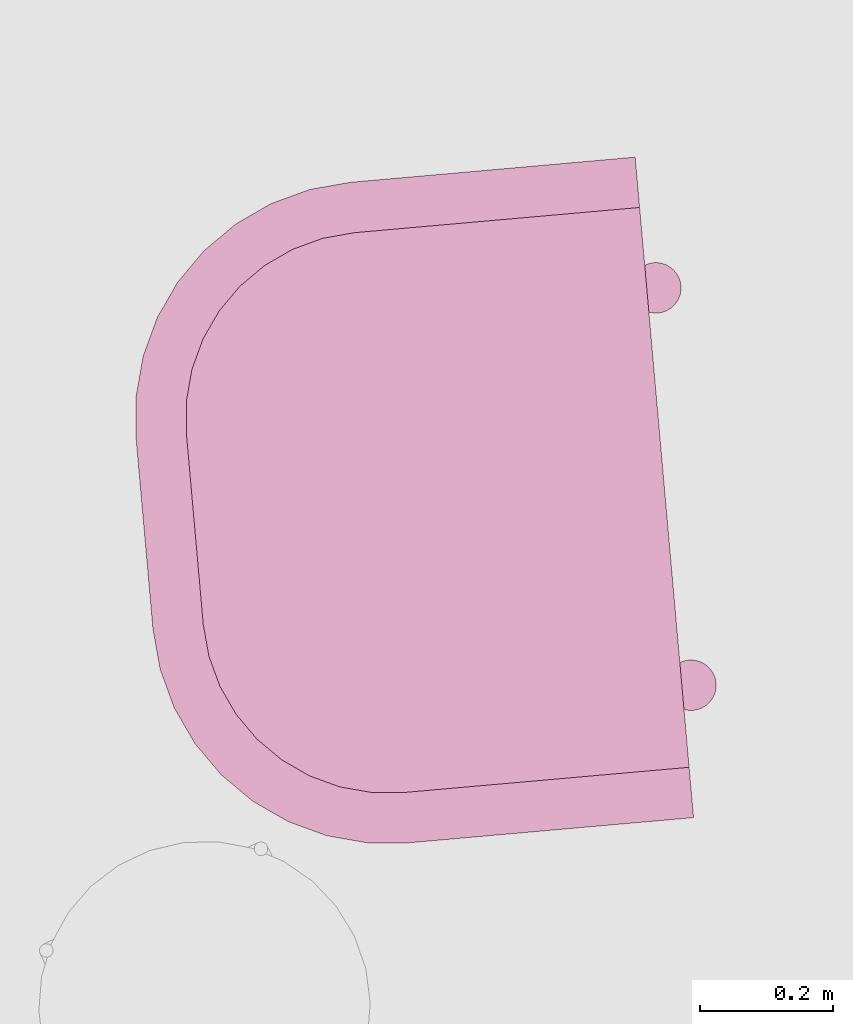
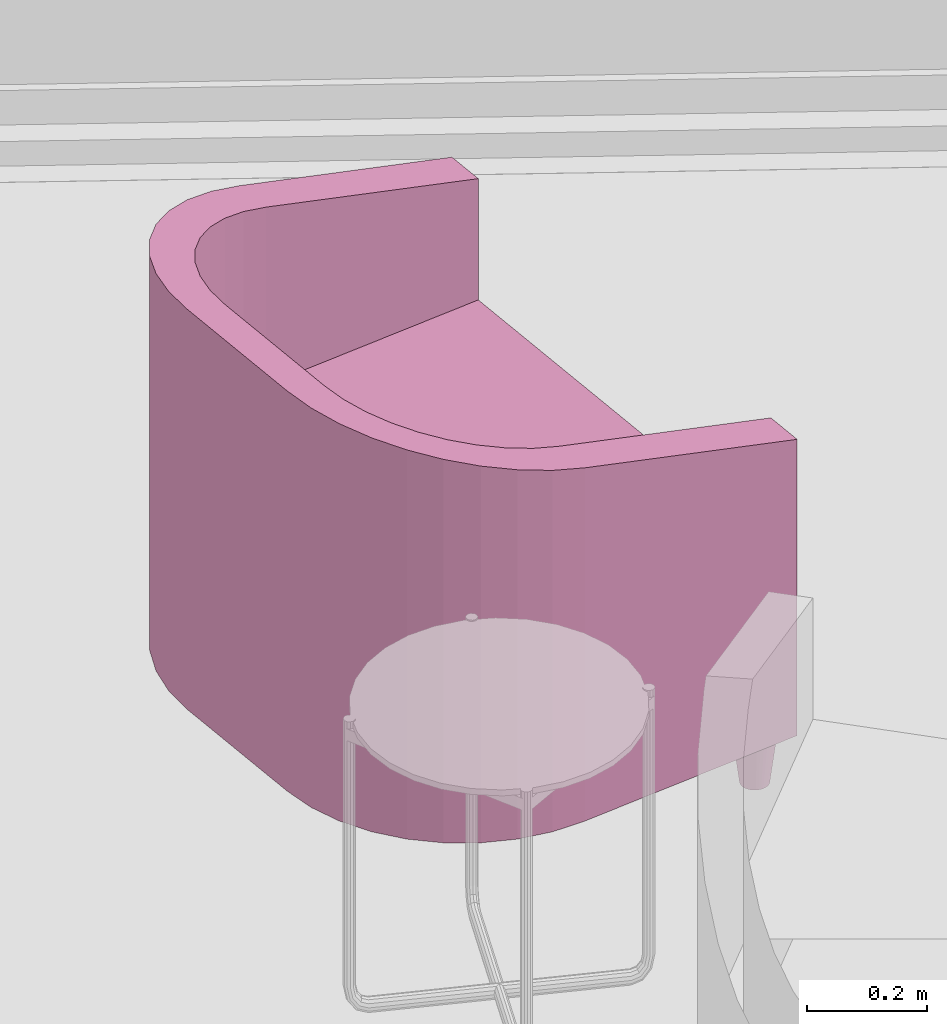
# One storey, part 33 of 52: 1 furnishing.
"""IFC2X3 building model written with IfcOpenShell, lengths in metres."""

import ifcopenshell
import ifcopenshell.guid

model = None  # the IFC model being written
_history = None  # IfcOwnerHistory: only IFC2X3 demands one
_inside = {}  # id of a spatial element -> (the spatial element, [elements in it])
_under = {}  # id of a project, library or spatial element -> (it, [spatial elements below it])
_declared = {}  # id of a project -> (the project, [libraries it declares])
_typed = {}  # id of a type object -> (the type object, [elements of that type])
_made_of = {}  # id of a material, layer set ... -> (it, [elements and type objects made of it])


def new_model(schema):
    """Start an empty IFC model of exactly this schema.

    Asked for "IFC4X3", IfcOpenShell would pick the latest addendum, in which some entities
    have other attributes; the version numbers below select the first issue.
    IFC2X3 requires an IfcOwnerHistory on every rooted entity: one is made here for all.
    """
    global model, _history
    if schema == "IFC4X3":
        model = ifcopenshell.file(schema_version=(4, 3, 0, 0))
    else:
        model = ifcopenshell.file(schema=schema)
    _inside.clear()
    _under.clear()
    _declared.clear()
    _typed.clear()
    _made_of.clear()
    _history = None
    if model.schema == "IFC2X3":
        org = make("IfcOrganization", Name="unknown")
        user = make(
            "IfcPersonAndOrganization",
            ThePerson=make("IfcPerson", FamilyName="unknown"),
            TheOrganization=org,
        )
        app = make(
            "IfcApplication",
            ApplicationDeveloper=org,
            Version="unknown",
            ApplicationFullName="unknown",
            ApplicationIdentifier="unknown",
        )
        _history = make(
            "IfcOwnerHistory",
            OwningUser=user,
            OwningApplication=app,
            ChangeAction="ADDED",
            CreationDate=0,
        )
    return model


def make(cls, **values):
    """One entity of the class cls with the attributes given. An attribute that is None is left unset."""
    return model.create_entity(
        cls, **{name: value for name, value in values.items() if value is not None}
    )


def entity(cls, *values):
    """Any entity or typed value of the class cls, its attributes in the order of the schema. None: left unset."""
    e = model.create_entity(cls)
    for i, value in enumerate(values):
        if value is not None:
            e[i] = value
    return e


def rooted(cls, **values):
    """An entity with a GlobalId (a new one), such as an element, a storey or a relation."""
    return make(cls, GlobalId=ifcopenshell.guid.new(), OwnerHistory=_history, **values)


def si_unit(unit_type, name, prefix=None):
    """IfcSIUnit, for example si_unit("LENGTHUNIT", "METRE", prefix="MILLI")."""
    return make("IfcSIUnit", UnitType=unit_type, Prefix=prefix, Name=name)


def converted_unit(unit_type, name, factor, base, dimensions=None, offset=None):
    """IfcConversionBasedUnit, such as the inch: factor (a typed value) times the base unit."""
    return make(
        "IfcConversionBasedUnit"
        if offset is None
        else "IfcConversionBasedUnitWithOffset",
        ConversionOffset=offset,
        Dimensions=None
        if dimensions is None
        else entity("IfcDimensionalExponents", *dimensions),
        UnitType=unit_type,
        Name=name,
        ConversionFactor=make(
            "IfcMeasureWithUnit", ValueComponent=factor, UnitComponent=base
        ),
    )


def derived_unit(unit_type, elements):
    """IfcDerivedUnit: a product of units, each with its exponent."""
    return make(
        "IfcDerivedUnit",
        Elements=[
            make("IfcDerivedUnitElement", Unit=unit, Exponent=power)
            for unit, power in elements
        ],
        UnitType=unit_type,
    )


def money_unit(currency):
    """IfcMonetaryUnit."""
    return make("IfcMonetaryUnit", Currency=currency)


def assignment(units):
    """IfcUnitAssignment: the units of a project."""
    return None if units is None else make("IfcUnitAssignment", Units=units)


def point(xyz):
    """IfcCartesianPoint."""
    return None if xyz is None else make("IfcCartesianPoint", Coordinates=xyz)


def direction(xyz):
    """IfcDirection."""
    return None if xyz is None else make("IfcDirection", DirectionRatios=xyz)


def frame(location, z_axis=None, x_axis=None):
    """IfcAxis2Placement3D, a coordinate frame: its origin and axes. An axis left out is left unset."""
    return make(
        "IfcAxis2Placement3D",
        Location=point(location),
        Axis=direction(z_axis),
        RefDirection=direction(x_axis),
    )


def origin_with_axes():
    """The frame at (0, 0, 0) with the z axis (0, 0, 1) and the x axis (1, 0, 0) written out."""
    return frame((0.0, 0.0, 0.0), z_axis=(0.0, 0.0, 1.0), x_axis=(1.0, 0.0, 0.0))


def place(relative_to, where):
    """IfcLocalPlacement: puts the frame where relative to a parent placement (None: the world)."""
    return make(
        "IfcLocalPlacement", PlacementRelTo=relative_to, RelativePlacement=where
    )


def context(
    kind, dimensions, precision=None, world=None, true_north=None, identifier=None
):
    """IfcGeometricRepresentationContext, for example the 3D "Model" context."""
    return make(
        "IfcGeometricRepresentationContext",
        ContextIdentifier=identifier,
        ContextType=kind,
        CoordinateSpaceDimension=dimensions,
        Precision=precision,
        WorldCoordinateSystem=world,
        TrueNorth=true_north,
    )


def subcontext(parent, identifier, kind, view, scale=None):
    """IfcGeometricRepresentationSubContext, for example "Body" below "Model"."""
    return make(
        "IfcGeometricRepresentationSubContext",
        ContextIdentifier=identifier,
        ContextType=kind,
        ParentContext=parent,
        TargetScale=scale,
        TargetView=view,
    )


def project(units=None, contexts=None):
    """IfcProject with its units and contexts."""
    return rooted(
        "IfcProject",
        Name="project",
        RepresentationContexts=contexts,
        UnitsInContext=assignment(units),
    )


def spatial(cls, under=None, at=None, **own):
    """A site, building, storey or space (cls), placed at a placement, below another one or the project."""
    s = rooted(cls, ObjectPlacement=at, **own)
    if under is not None:
        _under.setdefault(under.id(), (under, []))[1].append(s)
    return s


def faces_of(points, faces, orient=None, outer=None):
    """IfcFace entities. A face is a list of loops; a loop is a list of indices into points, from 0.

    orient and outer hold one flag for each loop. By default every Orientation is true, the
    first loop of a face is its IfcFaceOuterBound and the others are IfcFaceBound.
    """
    made = []
    for i, loops in enumerate(faces):
        bounds = []
        for j, loop in enumerate(loops):
            is_outer = j == 0 if outer is None else outer[i][j]
            bounds.append(
                make(
                    "IfcFaceOuterBound" if is_outer else "IfcFaceBound",
                    Bound=make("IfcPolyLoop", Polygon=[points[k] for k in loop]),
                    Orientation=True if orient is None else orient[i][j],
                )
            )
        made.append(make("IfcFace", Bounds=bounds))
    return made


def faceted_brep(points, faces, orient=None, outer=None, voids=None):
    """IfcFacetedBrep: a solid bounded by flat faces; with voids (closed shells), ...WithVoids."""
    shared = [point(p) for p in points]
    hull = make("IfcClosedShell", CfsFaces=faces_of(shared, faces, orient, outer))
    if voids is None:
        return make("IfcFacetedBrep", Outer=hull)
    return make(
        "IfcFacetedBrepWithVoids",
        Outer=hull,
        Voids=[
            make(cls, CfsFaces=faces_of(shared, fs, o, b)) for cls, fs, o, b in voids
        ],
    )


def shape(context_of_items, identifier, shape_type, items):
    """IfcShapeRepresentation: the items that make up one representation, for example the "Body"."""
    return make(
        "IfcShapeRepresentation",
        ContextOfItems=context_of_items,
        RepresentationIdentifier=identifier,
        RepresentationType=shape_type,
        Items=items,
    )


def source(mapping_origin, context_of_items, identifier, shape_type, items):
    """IfcRepresentationMap: a shape defined once, which mapped items show again and again."""
    return make(
        "IfcRepresentationMap",
        MappingOrigin=mapping_origin,
        MappedRepresentation=shape(context_of_items, identifier, shape_type, items),
    )


def transform(
    local_origin,
    x_axis=None,
    y_axis=None,
    z_axis=None,
    scale=None,
    scale2=None,
    scale3=None,
    uniform=True,
):
    """IfcCartesianTransformationOperator3D, or its non-uniform kind. x_axis, y_axis, z_axis: its Axis1, 2, 3."""
    if uniform:
        return make(
            "IfcCartesianTransformationOperator3D",
            Axis1=direction(x_axis),
            Axis2=direction(y_axis),
            LocalOrigin=point(local_origin),
            Scale=scale,
            Axis3=direction(z_axis),
        )
    return make(
        "IfcCartesianTransformationOperator3DnonUniform",
        Axis1=direction(x_axis),
        Axis2=direction(y_axis),
        LocalOrigin=point(local_origin),
        Scale=scale,
        Axis3=direction(z_axis),
        Scale2=scale2,
        Scale3=scale3,
    )


def mapped(mapping_source, mapping_target):
    """IfcMappedItem: shows the shape of a source again, moved by a transform."""
    return make(
        "IfcMappedItem", MappingSource=mapping_source, MappingTarget=mapping_target
    )


def made_of(thing, what):
    """Note that an element or type object is made of a material, layer set ...; save() writes the relation."""
    if what is not None:
        _made_of.setdefault(what.id(), (what, []))[1].append(thing)
    return thing


def type_object(cls, material=None, **own):
    """A type object (cls), such as IfcWallType, which elements share."""
    return made_of(rooted(cls, **own), material)


def element(
    cls,
    number,
    at=None,
    inside=None,
    cuts=None,
    type_object=None,
    material=None,
    context=None,
    identifier="Body",
    shape_type=None,
    held_by="IfcProductDefinitionShape",
    body=None,
    shapes=None,
    **own,
):
    """One element of the class cls, such as IfcWall. Its Tag is "e" and its number.

    at: its placement. inside: the storey or other place that contains it. cuts: it is an
    opening in that element (IfcRelVoidsElement). A single representation is given by context,
    identifier, shape_type and body (its items); several are given by shapes. held_by: the class
    of the entity that holds the representations. save() writes the other relations.
    """
    e = rooted(cls, Tag="e%d" % number, ObjectPlacement=at, **own)
    if body is not None:
        shapes = [shape(context, identifier, shape_type, body)]
    if shapes is not None:
        e.Representation = make(held_by, Representations=shapes)
    if inside is not None:
        _inside.setdefault(inside.id(), (inside, []))[1].append(e)
    if cuts is not None:
        rooted(
            "IfcRelVoidsElement", RelatingBuildingElement=cuts, RelatedOpeningElement=e
        )
    if type_object is not None:
        _typed.setdefault(type_object.id(), (type_object, []))[1].append(e)
    return made_of(e, material)


def aggregate(whole, parts):
    """IfcRelAggregates: a whole, such as a stair, and the parts it consists of."""
    return rooted("IfcRelAggregates", RelatingObject=whole, RelatedObjects=parts)


def save(model, path):
    """Write the relations noted so far, then the file.

    IfcRelAggregates (storeys below a building ...), IfcRelContainedInSpatialStructure (elements
    in a storey), IfcRelDefinesByType, IfcRelAssociatesMaterial and IfcRelDeclares: one each for
    every whole, place, type object, material and project.
    """
    for whole, parts in _under.values():
        aggregate(whole, parts)
    for where, things in _inside.values():
        rooted(
            "IfcRelContainedInSpatialStructure",
            RelatedElements=things,
            RelatingStructure=where,
        )
    for kind, things in _typed.values():
        rooted("IfcRelDefinesByType", RelatedObjects=things, RelatingType=kind)
    for what, things in _made_of.values():
        rooted("IfcRelAssociatesMaterial", RelatedObjects=things, RelatingMaterial=what)
    for by, libraries in _declared.values():
        rooted("IfcRelDeclares", RelatingContext=by, RelatedDefinitions=libraries)
    model.write(path)


model = new_model("IFC2X3")

# Units and contexts
model_context = context("Model", 3, precision=1e-05, world=origin_with_axes(), true_north=direction((0.0, 1.0)))
body_context = subcontext(model_context, "Body", "Model", "MODEL_VIEW")
ifc_project = project(units=[si_unit("LENGTHUNIT", "METRE"), si_unit("AREAUNIT", "SQUARE_METRE"), si_unit("VOLUMEUNIT", "CUBIC_METRE"), converted_unit("PLANEANGLEUNIT", "DEGREE", entity("IfcPlaneAngleMeasure", 0.0174532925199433), si_unit("PLANEANGLEUNIT", "RADIAN"), dimensions=[0, 0, 0, 0, 0, 0, 0]), money_unit("EUR"), converted_unit("TIMEUNIT", "Year", entity("IfcTimeMeasure", 31556926.0), si_unit("TIMEUNIT", "SECOND"), dimensions=[0, 0, 1, 0, 0, 0, 0]), si_unit("MASSUNIT", "GRAM", prefix="KILO"), si_unit("THERMODYNAMICTEMPERATUREUNIT", "DEGREE_CELSIUS"), si_unit("LUMINOUSINTENSITYUNIT", "LUMEN"), si_unit("ENERGYUNIT", "JOULE", prefix="MEGA"), derived_unit("THERMALCONDUCTANCEUNIT", [(si_unit("POWERUNIT", "WATT"), 1), (si_unit("LENGTHUNIT", "METRE"), -1), (si_unit("THERMODYNAMICTEMPERATUREUNIT", "KELVIN"), -1)]), derived_unit("SPECIFICHEATCAPACITYUNIT", [(si_unit("ENERGYUNIT", "JOULE"), 1), (si_unit("MASSUNIT", "GRAM", prefix="KILO"), -1), (si_unit("THERMODYNAMICTEMPERATUREUNIT", "KELVIN"), -1)]), derived_unit("MASSDENSITYUNIT", [(si_unit("MASSUNIT", "GRAM", prefix="KILO"), 1), (si_unit("VOLUMEUNIT", "CUBIC_METRE"), -1)])], contexts=[model_context])

# Site, building, storey
site_placement = place(None, frame((-3.949935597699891, 1.740105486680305, 0.0), z_axis=(0.0, 0.0, 1.0), x_axis=(0.8799804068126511, -0.475009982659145, 0.0)))
site = spatial("IfcSite", under=ifc_project, at=site_placement, Name="Gelände", CompositionType="ELEMENT")
building_placement = place(site_placement, origin_with_axes())
building = spatial("IfcBuilding", under=site, at=building_placement, Name="Gebäude", CompositionType="ELEMENT")
storey_placement = place(building_placement, origin_with_axes())
storey = spatial("IfcBuildingStorey", under=building, at=storey_placement, Name="Erdgeschoss", CompositionType="ELEMENT", Elevation=0.0)

# Furnishing
furnishing_element_type = type_object("IfcFurnishingElementType", Name="bucket chair (1)")
shared_shape = source(origin_with_axes(), body_context, "Body", "Brep", [
    faceted_brep([(0.47421411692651, 0.73188933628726, 0.0), (0.4746, 0.7363000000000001, 0.0), (0.4873, 0.7363000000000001, 0.1016), (0.4867211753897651, 0.72968400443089, 0.1016), (0.473068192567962, 0.7276126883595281, 0.0), (0.4711970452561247, 0.7236000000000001, 0.0), (0.468657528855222, 0.719973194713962, 0.0), (0.4655268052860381, 0.7168424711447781, 0.0), (0.4619, 0.7143029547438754, 0.0), (0.457887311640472, 0.712431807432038, 0.0), (0.45361066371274, 0.71128588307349, 0.0), (0.4492, 0.7109000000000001, 0.0), (0.44478933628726, 0.71128588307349, 0.0), (0.440512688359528, 0.712431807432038, 0.0), (0.4365, 0.7143029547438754, 0.0), (0.4328731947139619, 0.7168424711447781, 0.0), (0.429742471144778, 0.719973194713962, 0.0), (0.4272029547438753, 0.7236000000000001, 0.0), (0.4253318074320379, 0.7276126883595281, 0.0), (0.4241858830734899, 0.73188933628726, 0.0), (0.4238, 0.7363000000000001, 0.0), (0.4241858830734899, 0.7407106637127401, 0.0), (0.4253318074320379, 0.744987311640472, 0.0), (0.4272029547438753, 0.7490000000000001, 0.0), (0.429742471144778, 0.7526268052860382, 0.0), (0.4328731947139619, 0.7557575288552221, 0.0), (0.4365, 0.7582970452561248, 0.0), (0.440512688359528, 0.7601681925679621, 0.0), (0.44478933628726, 0.7613141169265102, 0.0), (0.4492, 0.7617, 0.0), (0.45361066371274, 0.7613141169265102, 0.0), (0.457887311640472, 0.7601681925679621, 0.0), (0.4619, 0.7582970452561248, 0.0), (0.4655268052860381, 0.7557575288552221, 0.0), (0.468657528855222, 0.7526268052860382, 0.0), (0.4711970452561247, 0.7490000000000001, 0.0), (0.4730681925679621, 0.744987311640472, 0.0), (0.4742141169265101, 0.7407106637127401, 0.0), (0.4867211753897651, 0.7429159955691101, 0.1016), (0.4850022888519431, 0.749330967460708, 0.1016), (0.4821955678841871, 0.7553500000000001, 0.1016), (0.4783862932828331, 0.7607902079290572, 0.1016), (0.4736902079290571, 0.7654862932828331, 0.1016), (0.46825, 0.7692955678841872, 0.1016), (0.462230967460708, 0.7721022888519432, 0.1016), (0.45581599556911, 0.7738211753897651, 0.1016), (0.4492, 0.7744000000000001, 0.1016), (0.44258400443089, 0.7738211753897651, 0.1016), (0.436169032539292, 0.7721022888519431, 0.1016), (0.43015, 0.7692955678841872, 0.1016), (0.4247097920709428, 0.7654862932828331, 0.1016), (0.420013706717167, 0.7607902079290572, 0.1016), (0.4162044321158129, 0.7553500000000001, 0.1016), (0.4133977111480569, 0.749330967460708, 0.1016), (0.4116788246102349, 0.7429159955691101, 0.1016), (0.4111, 0.7363000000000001, 0.1016), (0.4116788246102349, 0.72968400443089, 0.1016), (0.4133977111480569, 0.7232690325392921, 0.1016), (0.4162044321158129, 0.71725, 0.1016), (0.420013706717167, 0.711809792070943, 0.1016), (0.4247097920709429, 0.707113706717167, 0.1016), (0.43015, 0.703304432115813, 0.1016), (0.436169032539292, 0.700497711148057, 0.1016), (0.44258400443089, 0.698778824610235, 0.1016), (0.4492, 0.6982000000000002, 0.1016), (0.45581599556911, 0.698778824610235, 0.1016), (0.462230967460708, 0.700497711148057, 0.1016), (0.4682499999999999, 0.7033044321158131, 0.1016), (0.4736902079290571, 0.707113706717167, 0.1016), (0.478386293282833, 0.711809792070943, 0.1016), (0.482195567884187, 0.71725, 0.1016), (0.485002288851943, 0.7232690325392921, 0.1016)], [[[0, 1, 2, 3]], [[0, 4, 5, 6, 7, 8, 9, 10, 11, 12, 13, 14, 15, 16, 17, 18, 19, 20, 21, 22, 23, 24, 25, 26, 27, 28, 29, 30, 31, 32, 33, 34, 35, 36, 37, 1]], [[1, 37, 38, 2]], [[3, 2, 38, 39, 40, 41, 42, 43, 44, 45, 46, 47, 48, 49, 50, 51, 52, 53, 54, 55, 56, 57, 58, 59, 60, 61, 62, 63, 64, 65, 66, 67, 68, 69, 70, 71]], [[4, 0, 3, 71]], [[5, 4, 71, 70]], [[6, 5, 70, 69]], [[7, 6, 69, 68]], [[8, 7, 68, 67]], [[9, 8, 67, 66]], [[10, 9, 66, 65]], [[11, 10, 65, 64]], [[12, 11, 64, 63]], [[13, 12, 63, 62]], [[14, 13, 62, 61]], [[15, 14, 61, 60]], [[16, 15, 60, 59]], [[17, 16, 59, 58]], [[18, 17, 58, 57]], [[19, 18, 57, 56]], [[20, 19, 56, 55]], [[21, 20, 55, 54]], [[22, 21, 54, 53]], [[23, 22, 53, 52]], [[24, 23, 52, 51]], [[25, 24, 51, 50]], [[26, 25, 50, 49]], [[27, 26, 49, 48]], [[28, 27, 48, 47]], [[29, 28, 47, 46]], [[30, 29, 46, 45]], [[31, 30, 45, 44]], [[32, 31, 44, 43]], [[33, 32, 43, 42]], [[34, 33, 42, 41]], [[35, 34, 41, 40]], [[36, 35, 40, 39]], [[37, 36, 39, 38]]]),
    faceted_brep([(-0.42418588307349, 0.73188933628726, 0.0), (-0.4238, 0.7363000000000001, 0.0), (-0.4111, 0.7363000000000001, 0.1016), (-0.4116788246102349, 0.72968400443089, 0.1016), (-0.425331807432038, 0.7276126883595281, 0.0), (-0.4272029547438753, 0.7236000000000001, 0.0), (-0.429742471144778, 0.719973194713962, 0.0), (-0.4328731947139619, 0.7168424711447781, 0.0), (-0.4365, 0.7143029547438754, 0.0), (-0.440512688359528, 0.712431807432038, 0.0), (-0.44478933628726, 0.71128588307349, 0.0), (-0.4492, 0.7109000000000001, 0.0), (-0.45361066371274, 0.71128588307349, 0.0), (-0.457887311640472, 0.712431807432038, 0.0), (-0.4619, 0.7143029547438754, 0.0), (-0.4655268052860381, 0.7168424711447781, 0.0), (-0.468657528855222, 0.719973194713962, 0.0), (-0.4711970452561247, 0.7236000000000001, 0.0), (-0.4730681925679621, 0.7276126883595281, 0.0), (-0.4742141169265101, 0.73188933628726, 0.0), (-0.4746, 0.7363000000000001, 0.0), (-0.4742141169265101, 0.7407106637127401, 0.0), (-0.4730681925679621, 0.744987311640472, 0.0), (-0.4711970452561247, 0.7490000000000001, 0.0), (-0.468657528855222, 0.7526268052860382, 0.0), (-0.4655268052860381, 0.7557575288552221, 0.0), (-0.4619, 0.7582970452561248, 0.0), (-0.457887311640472, 0.7601681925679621, 0.0), (-0.45361066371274, 0.7613141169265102, 0.0), (-0.4492, 0.7617, 0.0), (-0.44478933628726, 0.7613141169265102, 0.0), (-0.440512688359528, 0.7601681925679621, 0.0), (-0.4365, 0.7582970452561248, 0.0), (-0.4328731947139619, 0.7557575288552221, 0.0), (-0.4297424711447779, 0.7526268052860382, 0.0), (-0.4272029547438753, 0.7490000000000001, 0.0), (-0.4253318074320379, 0.744987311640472, 0.0), (-0.4241858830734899, 0.7407106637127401, 0.0), (-0.4116788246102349, 0.7429159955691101, 0.1016), (-0.4133977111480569, 0.749330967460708, 0.1016), (-0.4162044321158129, 0.7553500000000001, 0.1016), (-0.4200137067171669, 0.7607902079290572, 0.1016), (-0.4247097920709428, 0.7654862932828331, 0.1016), (-0.43015, 0.7692955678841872, 0.1016), (-0.436169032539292, 0.7721022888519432, 0.1016), (-0.44258400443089, 0.7738211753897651, 0.1016), (-0.4492, 0.7744000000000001, 0.1016), (-0.45581599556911, 0.7738211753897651, 0.1016), (-0.462230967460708, 0.7721022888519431, 0.1016), (-0.4682499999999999, 0.7692955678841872, 0.1016), (-0.4736902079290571, 0.7654862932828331, 0.1016), (-0.478386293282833, 0.7607902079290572, 0.1016), (-0.482195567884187, 0.7553500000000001, 0.1016), (-0.4850022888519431, 0.749330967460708, 0.1016), (-0.4867211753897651, 0.7429159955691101, 0.1016), (-0.4873, 0.7363000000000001, 0.1016), (-0.4867211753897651, 0.72968400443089, 0.1016), (-0.4850022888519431, 0.7232690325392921, 0.1016), (-0.482195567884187, 0.71725, 0.1016), (-0.478386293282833, 0.711809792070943, 0.1016), (-0.4736902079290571, 0.707113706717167, 0.1016), (-0.4682499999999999, 0.703304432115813, 0.1016), (-0.462230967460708, 0.700497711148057, 0.1016), (-0.45581599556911, 0.698778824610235, 0.1016), (-0.4492, 0.6982000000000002, 0.1016), (-0.44258400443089, 0.698778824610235, 0.1016), (-0.436169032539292, 0.700497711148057, 0.1016), (-0.43015, 0.7033044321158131, 0.1016), (-0.4247097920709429, 0.707113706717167, 0.1016), (-0.420013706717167, 0.711809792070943, 0.1016), (-0.4162044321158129, 0.71725, 0.1016), (-0.413397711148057, 0.7232690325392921, 0.1016)], [[[0, 1, 2, 3]], [[0, 4, 5, 6, 7, 8, 9, 10, 11, 12, 13, 14, 15, 16, 17, 18, 19, 20, 21, 22, 23, 24, 25, 26, 27, 28, 29, 30, 31, 32, 33, 34, 35, 36, 37, 1]], [[1, 37, 38, 2]], [[3, 2, 38, 39, 40, 41, 42, 43, 44, 45, 46, 47, 48, 49, 50, 51, 52, 53, 54, 55, 56, 57, 58, 59, 60, 61, 62, 63, 64, 65, 66, 67, 68, 69, 70, 71]], [[4, 0, 3, 71]], [[5, 4, 71, 70]], [[6, 5, 70, 69]], [[7, 6, 69, 68]], [[8, 7, 68, 67]], [[9, 8, 67, 66]], [[10, 9, 66, 65]], [[11, 10, 65, 64]], [[12, 11, 64, 63]], [[13, 12, 63, 62]], [[14, 13, 62, 61]], [[15, 14, 61, 60]], [[16, 15, 60, 59]], [[17, 16, 59, 58]], [[18, 17, 58, 57]], [[19, 18, 57, 56]], [[20, 19, 56, 55]], [[21, 20, 55, 54]], [[22, 21, 54, 53]], [[23, 22, 53, 52]], [[24, 23, 52, 51]], [[25, 24, 51, 50]], [[26, 25, 50, 49]], [[27, 26, 49, 48]], [[28, 27, 48, 47]], [[29, 28, 47, 46]], [[30, 29, 46, 45]], [[31, 30, 45, 44]], [[32, 31, 44, 43]], [[33, 32, 43, 42]], [[34, 33, 42, 41]], [[35, 34, 41, 40]], [[36, 35, 40, 39]], [[37, 36, 39, 38]]]),
    faceted_brep([(0.3258141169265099, 0.7963893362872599, 0.0), (0.3261999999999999, 0.8008, 0.0), (0.3388999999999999, 0.8008, 0.1016), (0.338321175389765, 0.7941840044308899, 0.1016), (0.3246681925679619, 0.792112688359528, 0.0), (0.3227970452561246, 0.7881, 0.0), (0.3202575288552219, 0.7844731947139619, 0.0), (0.317126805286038, 0.781342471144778, 0.0), (0.3134999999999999, 0.7788029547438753, 0.0), (0.3094873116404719, 0.7769318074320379, 0.0), (0.3052106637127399, 0.77578588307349, 0.0), (0.3007999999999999, 0.7754, 0.0), (0.2963893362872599, 0.77578588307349, 0.0), (0.2921126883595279, 0.7769318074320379, 0.0), (0.2880999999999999, 0.7788029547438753, 0.0), (0.2844731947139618, 0.781342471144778, 0.0), (0.2813424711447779, 0.7844731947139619, 0.0), (0.2788029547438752, 0.7881, 0.0), (0.2769318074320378, 0.792112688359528, 0.0), (0.2757858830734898, 0.7963893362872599, 0.0), (0.2753999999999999, 0.8008, 0.0), (0.2757858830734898, 0.80521066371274, 0.0), (0.2769318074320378, 0.8094873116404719, 0.0), (0.2788029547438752, 0.8135, 0.0), (0.2813424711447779, 0.8171268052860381, 0.0), (0.2844731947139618, 0.820257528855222, 0.0), (0.2880999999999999, 0.8227970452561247, 0.0), (0.2921126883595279, 0.824668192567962, 0.0), (0.2963893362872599, 0.8258141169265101, 0.0), (0.3007999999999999, 0.8261999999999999, 0.0), (0.3052106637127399, 0.8258141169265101, 0.0), (0.3094873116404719, 0.824668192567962, 0.0), (0.3134999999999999, 0.8227970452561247, 0.0), (0.317126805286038, 0.820257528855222, 0.0), (0.320257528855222, 0.8171268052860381, 0.0), (0.3227970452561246, 0.8135, 0.0), (0.324668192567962, 0.8094873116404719, 0.0), (0.32581411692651, 0.80521066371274, 0.0), (0.338321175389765, 0.80741599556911, 0.1016), (0.336602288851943, 0.8138309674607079, 0.1016), (0.333795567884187, 0.81985, 0.1016), (0.329986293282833, 0.825290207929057, 0.1016), (0.3252902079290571, 0.829986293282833, 0.1016), (0.3198499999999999, 0.8337955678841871, 0.1016), (0.3138309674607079, 0.8366022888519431, 0.1016), (0.3074159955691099, 0.838321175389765, 0.1016), (0.3007999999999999, 0.8389, 0.1016), (0.2941840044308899, 0.838321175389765, 0.1016), (0.2877690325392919, 0.8366022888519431, 0.1016), (0.2817499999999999, 0.8337955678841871, 0.1016), (0.2763097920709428, 0.829986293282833, 0.1016), (0.2716137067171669, 0.825290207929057, 0.1016), (0.2678044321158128, 0.81985, 0.1016), (0.2649977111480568, 0.8138309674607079, 0.1016), (0.2632788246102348, 0.80741599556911, 0.1016), (0.2626999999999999, 0.8008, 0.1016), (0.2632788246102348, 0.7941840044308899, 0.1016), (0.2649977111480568, 0.787769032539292, 0.1016), (0.2678044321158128, 0.78175, 0.1016), (0.2716137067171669, 0.7763097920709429, 0.1016), (0.2763097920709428, 0.7716137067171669, 0.1016), (0.2817499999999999, 0.7678044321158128, 0.1016), (0.2877690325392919, 0.7649977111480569, 0.1016), (0.2941840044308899, 0.7632788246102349, 0.1016), (0.3007999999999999, 0.7627, 0.1016), (0.3074159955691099, 0.7632788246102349, 0.1016), (0.3138309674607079, 0.7649977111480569, 0.1016), (0.3198499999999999, 0.767804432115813, 0.1016), (0.325290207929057, 0.7716137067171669, 0.1016), (0.3299862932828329, 0.7763097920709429, 0.1016), (0.333795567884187, 0.78175, 0.1016), (0.3366022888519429, 0.787769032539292, 0.1016)], [[[0, 1, 2, 3]], [[0, 4, 5, 6, 7, 8, 9, 10, 11, 12, 13, 14, 15, 16, 17, 18, 19, 20, 21, 22, 23, 24, 25, 26, 27, 28, 29, 30, 31, 32, 33, 34, 35, 36, 37, 1]], [[1, 37, 38, 2]], [[3, 2, 38, 39, 40, 41, 42, 43, 44, 45, 46, 47, 48, 49, 50, 51, 52, 53, 54, 55, 56, 57, 58, 59, 60, 61, 62, 63, 64, 65, 66, 67, 68, 69, 70, 71]], [[4, 0, 3, 71]], [[5, 4, 71, 70]], [[6, 5, 70, 69]], [[7, 6, 69, 68]], [[8, 7, 68, 67]], [[9, 8, 67, 66]], [[10, 9, 66, 65]], [[11, 10, 65, 64]], [[12, 11, 64, 63]], [[13, 12, 63, 62]], [[14, 13, 62, 61]], [[15, 14, 61, 60]], [[16, 15, 60, 59]], [[17, 16, 59, 58]], [[18, 17, 58, 57]], [[19, 18, 57, 56]], [[20, 19, 56, 55]], [[21, 20, 55, 54]], [[22, 21, 54, 53]], [[23, 22, 53, 52]], [[24, 23, 52, 51]], [[25, 24, 51, 50]], [[26, 25, 50, 49]], [[27, 26, 49, 48]], [[28, 27, 48, 47]], [[29, 28, 47, 46]], [[30, 29, 46, 45]], [[31, 30, 45, 44]], [[32, 31, 44, 43]], [[33, 32, 43, 42]], [[34, 33, 42, 41]], [[35, 34, 41, 40]], [[36, 35, 40, 39]], [[37, 36, 39, 38]]]),
    faceted_brep([(-0.2757858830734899, 0.7963893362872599, 0.0), (-0.2753999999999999, 0.8008, 0.0), (-0.2626999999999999, 0.8008, 0.1016), (-0.2632788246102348, 0.7941840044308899, 0.1016), (-0.2769318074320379, 0.792112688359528, 0.0), (-0.2788029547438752, 0.7881, 0.0), (-0.2813424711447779, 0.7844731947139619, 0.0), (-0.2844731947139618, 0.781342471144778, 0.0), (-0.2880999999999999, 0.7788029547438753, 0.0), (-0.2921126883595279, 0.7769318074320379, 0.0), (-0.2963893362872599, 0.77578588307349, 0.0), (-0.3007999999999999, 0.7754, 0.0), (-0.3052106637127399, 0.77578588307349, 0.0), (-0.3094873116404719, 0.7769318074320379, 0.0), (-0.3134999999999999, 0.7788029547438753, 0.0), (-0.317126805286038, 0.781342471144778, 0.0), (-0.3202575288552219, 0.7844731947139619, 0.0), (-0.3227970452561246, 0.7881, 0.0), (-0.324668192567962, 0.792112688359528, 0.0), (-0.32581411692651, 0.7963893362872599, 0.0), (-0.3261999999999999, 0.8008, 0.0), (-0.32581411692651, 0.80521066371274, 0.0), (-0.324668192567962, 0.8094873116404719, 0.0), (-0.3227970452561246, 0.8135, 0.0), (-0.3202575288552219, 0.8171268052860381, 0.0), (-0.317126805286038, 0.820257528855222, 0.0), (-0.3134999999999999, 0.8227970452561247, 0.0), (-0.3094873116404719, 0.824668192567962, 0.0), (-0.3052106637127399, 0.8258141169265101, 0.0), (-0.3007999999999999, 0.8261999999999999, 0.0), (-0.2963893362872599, 0.8258141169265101, 0.0), (-0.2921126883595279, 0.824668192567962, 0.0), (-0.2880999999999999, 0.8227970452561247, 0.0), (-0.2844731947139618, 0.820257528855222, 0.0), (-0.2813424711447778, 0.8171268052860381, 0.0), (-0.2788029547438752, 0.8135, 0.0), (-0.2769318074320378, 0.8094873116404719, 0.0), (-0.2757858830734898, 0.80521066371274, 0.0), (-0.2632788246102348, 0.80741599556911, 0.1016), (-0.2649977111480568, 0.8138309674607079, 0.1016), (-0.2678044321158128, 0.81985, 0.1016), (-0.2716137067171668, 0.825290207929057, 0.1016), (-0.2763097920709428, 0.829986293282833, 0.1016), (-0.2817499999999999, 0.8337955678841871, 0.1016), (-0.2877690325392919, 0.8366022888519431, 0.1016), (-0.2941840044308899, 0.838321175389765, 0.1016), (-0.3007999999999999, 0.8389, 0.1016), (-0.3074159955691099, 0.838321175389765, 0.1016), (-0.3138309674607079, 0.8366022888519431, 0.1016), (-0.3198499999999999, 0.8337955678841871, 0.1016), (-0.3252902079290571, 0.829986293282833, 0.1016), (-0.3299862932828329, 0.825290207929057, 0.1016), (-0.333795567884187, 0.81985, 0.1016), (-0.336602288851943, 0.8138309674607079, 0.1016), (-0.338321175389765, 0.80741599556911, 0.1016), (-0.3388999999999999, 0.8008, 0.1016), (-0.338321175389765, 0.7941840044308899, 0.1016), (-0.336602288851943, 0.787769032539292, 0.1016), (-0.333795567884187, 0.78175, 0.1016), (-0.3299862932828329, 0.7763097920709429, 0.1016), (-0.325290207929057, 0.7716137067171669, 0.1016), (-0.3198499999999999, 0.7678044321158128, 0.1016), (-0.3138309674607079, 0.7649977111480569, 0.1016), (-0.3074159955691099, 0.7632788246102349, 0.1016), (-0.3007999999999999, 0.7627, 0.1016), (-0.2941840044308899, 0.7632788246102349, 0.1016), (-0.2877690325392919, 0.7649977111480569, 0.1016), (-0.2817499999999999, 0.767804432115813, 0.1016), (-0.2763097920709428, 0.7716137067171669, 0.1016), (-0.2716137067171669, 0.7763097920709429, 0.1016), (-0.2678044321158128, 0.78175, 0.1016), (-0.2649977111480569, 0.787769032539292, 0.1016)], [[[0, 1, 2, 3]], [[0, 4, 5, 6, 7, 8, 9, 10, 11, 12, 13, 14, 15, 16, 17, 18, 19, 20, 21, 22, 23, 24, 25, 26, 27, 28, 29, 30, 31, 32, 33, 34, 35, 36, 37, 1]], [[1, 37, 38, 2]], [[3, 2, 38, 39, 40, 41, 42, 43, 44, 45, 46, 47, 48, 49, 50, 51, 52, 53, 54, 55, 56, 57, 58, 59, 60, 61, 62, 63, 64, 65, 66, 67, 68, 69, 70, 71]], [[4, 0, 3, 71]], [[5, 4, 71, 70]], [[6, 5, 70, 69]], [[7, 6, 69, 68]], [[8, 7, 68, 67]], [[9, 8, 67, 66]], [[10, 9, 66, 65]], [[11, 10, 65, 64]], [[12, 11, 64, 63]], [[13, 12, 63, 62]], [[14, 13, 62, 61]], [[15, 14, 61, 60]], [[16, 15, 60, 59]], [[17, 16, 59, 58]], [[18, 17, 58, 57]], [[19, 18, 57, 56]], [[20, 19, 56, 55]], [[21, 20, 55, 54]], [[22, 21, 54, 53]], [[23, 22, 53, 52]], [[24, 23, 52, 51]], [[25, 24, 51, 50]], [[26, 25, 50, 49]], [[27, 26, 49, 48]], [[28, 27, 48, 47]], [[29, 28, 47, 46]], [[30, 29, 46, 45]], [[31, 30, 45, 44]], [[32, 31, 44, 43]], [[33, 32, 43, 42]], [[34, 33, 42, 41]], [[35, 34, 41, 40]], [[36, 35, 40, 39]], [[37, 36, 39, 38]]]),
    faceted_brep([(-0.5, 0.7871, 0.1016), (-0.5, 0.3556, 0.1016), (-0.5, 0.3556, 0.8191172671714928), (-0.5, 0.7871, 0.7034971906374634), (-0.4238, 0.7871, 0.1016), (-0.4238, 0.3556000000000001, 0.1016), (-0.4195552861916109, 0.3070826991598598, 0.1016), (-0.4069501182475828, 0.2600395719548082, 0.1016), (-0.3863674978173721, 0.2159000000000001, 0.1016), (-0.3584328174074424, 0.176005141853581, 0.1016), (-0.323994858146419, 0.1415671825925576, 0.1016), (-0.2841, 0.1136325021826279, 0.1016), (-0.2399604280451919, 0.09304988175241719, 0.1016), (-0.1929173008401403, 0.08044471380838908, 0.1016), (-0.1444, 0.0762, 0.1016), (0.1444000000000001, 0.07620000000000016, 0.1016), (0.1929173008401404, 0.08044471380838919, 0.1016), (0.2399604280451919, 0.0930498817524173, 0.1016), (0.2841, 0.1136325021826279, 0.1016), (0.3239948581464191, 0.1415671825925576, 0.1016), (0.3584328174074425, 0.176005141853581, 0.1016), (0.3863674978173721, 0.2159000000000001, 0.1016), (0.4069501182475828, 0.2600395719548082, 0.1016), (0.4195552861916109, 0.3070826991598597, 0.1016), (0.4238, 0.3556, 0.1016), (0.4238, 0.7871, 0.1016), (0.5, 0.7871, 0.1016), (0.4999999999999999, 0.3555999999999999, 0.1016), (0.494597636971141, 0.2938507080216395, 0.1016), (0.4785546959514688, 0.2339776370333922, 0.1016), (0.4523586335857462, 0.1778, 0.1016), (0.4168054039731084, 0.1270247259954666, 0.1016), (0.3729752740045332, 0.08319459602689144, 0.1016), (0.3221999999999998, 0.04764136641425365, 0.1016), (0.2660223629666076, 0.02144530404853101, 0.1016), (0.2061492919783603, 0.005402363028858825, 0.1016), (0.1444, 0.0, 0.1016), (0.0, 0.0, 0.1016), (-0.1444000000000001, 0.0, 0.1016), (-0.2061492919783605, 0.005402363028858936, 0.1016), (-0.2660223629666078, 0.02144530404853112, 0.1016), (-0.3222, 0.04764136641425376, 0.1016), (-0.3729752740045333, 0.08319459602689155, 0.1016), (-0.4168054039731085, 0.1270247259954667, 0.1016), (-0.4523586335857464, 0.1778000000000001, 0.1016), (-0.4785546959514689, 0.2339776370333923, 0.1016), (-0.4945976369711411, 0.2938507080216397, 0.1016), (-0.4945976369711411, 0.2938507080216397, 0.8356629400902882), (-0.4785546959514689, 0.2339776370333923, 0.8517058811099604), (-0.4523586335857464, 0.1778000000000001, 0.8667586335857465), (-0.4168054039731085, 0.1270247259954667, 0.8803638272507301), (-0.3729752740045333, 0.08319459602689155, 0.892108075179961), (-0.3222, 0.04764136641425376, 0.9016345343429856), (-0.2660223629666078, 0.02144530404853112, 0.9086537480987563), (-0.2061492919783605, 0.005402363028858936, 0.9129524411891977), (-0.1444000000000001, 0.0, 0.9144000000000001), (0.0, 0.0, 0.9144000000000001), (0.1444, 0.0, 0.9144000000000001), (0.2061492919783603, 0.005402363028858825, 0.9129524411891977), (0.2660223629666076, 0.02144530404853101, 0.9086537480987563), (0.3221999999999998, 0.04764136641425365, 0.9016345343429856), (0.3729752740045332, 0.08319459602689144, 0.8921080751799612), (0.4168054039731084, 0.1270247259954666, 0.8803638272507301), (0.4523586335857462, 0.1778, 0.8667586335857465), (0.4785546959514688, 0.2339776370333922, 0.8517058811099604), (0.494597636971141, 0.2938507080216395, 0.8356629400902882), (0.4999999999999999, 0.3555999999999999, 0.8191172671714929), (0.5, 0.7871, 0.7034971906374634), (0.4238, 0.7871, 0.7034971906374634), (0.4238, 0.3556, 0.8191172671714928), (0.4195552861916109, 0.3070826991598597, 0.8321174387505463), (0.4069501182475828, 0.2600395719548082, 0.8447226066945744), (0.3863674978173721, 0.2159000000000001, 0.8565497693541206), (0.3584328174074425, 0.176005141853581, 0.8672395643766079), (0.3239948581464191, 0.1415671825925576, 0.8764671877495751), (0.2841, 0.1136325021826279, 0.8839522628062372), (0.2399604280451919, 0.0930498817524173, 0.8894673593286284), (0.1929173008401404, 0.08044471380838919, 0.8928449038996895), (0.1444000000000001, 0.07620000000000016, 0.8939822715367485), (-0.1444, 0.0762, 0.8939822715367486), (-0.1929173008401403, 0.08044471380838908, 0.8928449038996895), (-0.2399604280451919, 0.09304988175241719, 0.8894673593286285), (-0.2841, 0.1136325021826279, 0.8839522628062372), (-0.323994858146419, 0.1415671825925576, 0.8764671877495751), (-0.3584328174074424, 0.176005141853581, 0.8672395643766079), (-0.3863674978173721, 0.2159000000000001, 0.8565497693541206), (-0.4069501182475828, 0.2600395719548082, 0.8447226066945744), (-0.4195552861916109, 0.3070826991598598, 0.8321174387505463), (-0.4238, 0.3556000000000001, 0.8191172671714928), (-0.4238, 0.7871, 0.7034971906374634)], [[[0, 1, 2, 3]], [[0, 4, 5, 6, 7, 8, 9, 10, 11, 12, 13, 14, 15, 16, 17, 18, 19, 20, 21, 22, 23, 24, 25, 26, 27, 28, 29, 30, 31, 32, 33, 34, 35, 36, 37, 38, 39, 40, 41, 42, 43, 44, 45, 46, 1]], [[1, 46, 47, 2]], [[3, 2, 47, 48, 49, 50, 51, 52, 53, 54, 55, 56, 57, 58, 59, 60, 61, 62, 63, 64, 65, 66, 67, 68, 69, 70, 71, 72, 73, 74, 75, 76, 77, 78, 79, 80, 81, 82, 83, 84, 85, 86, 87, 88, 89]], [[4, 0, 3, 89]], [[5, 4, 89, 88]], [[6, 5, 88, 87]], [[7, 6, 87, 86]], [[8, 7, 86, 85]], [[9, 8, 85, 84]], [[10, 9, 84, 83]], [[11, 10, 83, 82]], [[12, 11, 82, 81]], [[13, 12, 81, 80]], [[14, 13, 80, 79]], [[15, 14, 79, 78]], [[16, 15, 78, 77]], [[17, 16, 77, 76]], [[18, 17, 76, 75]], [[19, 18, 75, 74]], [[20, 19, 74, 73]], [[21, 20, 73, 72]], [[22, 21, 72, 71]], [[23, 22, 71, 70]], [[24, 23, 70, 69]], [[25, 24, 69, 68]], [[26, 25, 68, 67]], [[27, 26, 67, 66]], [[28, 27, 66, 65]], [[29, 28, 65, 64]], [[30, 29, 64, 63]], [[31, 30, 63, 62]], [[32, 31, 62, 61]], [[33, 32, 61, 60]], [[34, 33, 60, 59]], [[35, 34, 59, 58]], [[36, 35, 58, 57]], [[37, 36, 57, 56]], [[38, 37, 56, 55]], [[39, 38, 55, 54]], [[40, 39, 54, 53]], [[41, 40, 53, 52]], [[42, 41, 52, 51]], [[43, 42, 51, 50]], [[44, 43, 50, 49]], [[45, 44, 49, 48]], [[46, 45, 48, 47]]]),
    faceted_brep([(-0.4238, 0.7871, 0.1016), (-0.4238, 0.3556000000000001, 0.1016), (-0.4238, 0.3556000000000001, 0.4572000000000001), (-0.4238, 0.7871, 0.4572000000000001), (0.4238, 0.7871, 0.1016), (0.4238, 0.3556, 0.1016), (0.4195552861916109, 0.3070826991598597, 0.1016), (0.4069501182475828, 0.2600395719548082, 0.1016), (0.3863674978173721, 0.2159000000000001, 0.1016), (0.3584328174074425, 0.176005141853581, 0.1016), (0.3239948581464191, 0.1415671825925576, 0.1016), (0.2841, 0.1136325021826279, 0.1016), (0.2399604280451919, 0.0930498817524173, 0.1016), (0.1929173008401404, 0.08044471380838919, 0.1016), (0.1444000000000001, 0.07620000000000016, 0.1016), (-0.1444, 0.0762, 0.1016), (-0.1929173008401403, 0.08044471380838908, 0.1016), (-0.2399604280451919, 0.09304988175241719, 0.1016), (-0.2841, 0.1136325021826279, 0.1016), (-0.323994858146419, 0.1415671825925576, 0.1016), (-0.3584328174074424, 0.176005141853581, 0.1016), (-0.3863674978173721, 0.2159000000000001, 0.1016), (-0.4069501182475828, 0.2600395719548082, 0.1016), (-0.4195552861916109, 0.3070826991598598, 0.1016), (-0.4195552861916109, 0.3070826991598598, 0.4572000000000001), (-0.4069501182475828, 0.2600395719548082, 0.4572000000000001), (-0.3863674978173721, 0.2159000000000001, 0.4572000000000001), (-0.3584328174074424, 0.176005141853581, 0.4572000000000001), (-0.323994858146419, 0.1415671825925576, 0.4572000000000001), (-0.2841, 0.1136325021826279, 0.4572000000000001), (-0.2399604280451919, 0.09304988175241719, 0.4572000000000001), (-0.1929173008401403, 0.08044471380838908, 0.4572000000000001), (-0.1444, 0.0762, 0.4572000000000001), (0.1444000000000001, 0.07620000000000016, 0.4572000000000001), (0.1929173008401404, 0.08044471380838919, 0.4572000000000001), (0.2399604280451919, 0.0930498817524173, 0.4572000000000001), (0.2841, 0.1136325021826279, 0.4572000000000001), (0.3239948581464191, 0.1415671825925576, 0.4572000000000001), (0.3584328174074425, 0.176005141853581, 0.4572000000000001), (0.3863674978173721, 0.2159000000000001, 0.4572000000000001), (0.4069501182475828, 0.2600395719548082, 0.4572000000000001), (0.4195552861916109, 0.3070826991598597, 0.4572000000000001), (0.4238, 0.3556, 0.4572000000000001), (0.4238, 0.7871, 0.4572000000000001)], [[[0, 1, 2, 3]], [[0, 4, 5, 6, 7, 8, 9, 10, 11, 12, 13, 14, 15, 16, 17, 18, 19, 20, 21, 22, 23, 1]], [[1, 23, 24, 2]], [[3, 2, 24, 25, 26, 27, 28, 29, 30, 31, 32, 33, 34, 35, 36, 37, 38, 39, 40, 41, 42, 43]], [[4, 0, 3, 43]], [[5, 4, 43, 42]], [[6, 5, 42, 41]], [[7, 6, 41, 40]], [[8, 7, 40, 39]], [[9, 8, 39, 38]], [[10, 9, 38, 37]], [[11, 10, 37, 36]], [[12, 11, 36, 35]], [[13, 12, 35, 34]], [[14, 13, 34, 33]], [[15, 14, 33, 32]], [[16, 15, 32, 31]], [[17, 16, 31, 30]], [[18, 17, 30, 29]], [[19, 18, 29, 28]], [[20, 19, 28, 27]], [[21, 20, 27, 26]], [[22, 21, 26, 25]], [[23, 22, 25, 24]]]),
])
furnishing_placement = place(storey_placement, frame((23.53500098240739, 13.27965922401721, 0.0), z_axis=(0.0, 0.0, 1.0), x_axis=(0.5506536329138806, -0.8347338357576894, 0.0)))
element("IfcFurnishingElement", 1, at=furnishing_placement, inside=storey, type_object=furnishing_element_type, Name="Objekt-0069", context=body_context, shape_type="MappedRepresentation", body=[
    mapped(shared_shape, transform((0.0, 0.0, 0.0))),
])

save(model, "model.ifc")
